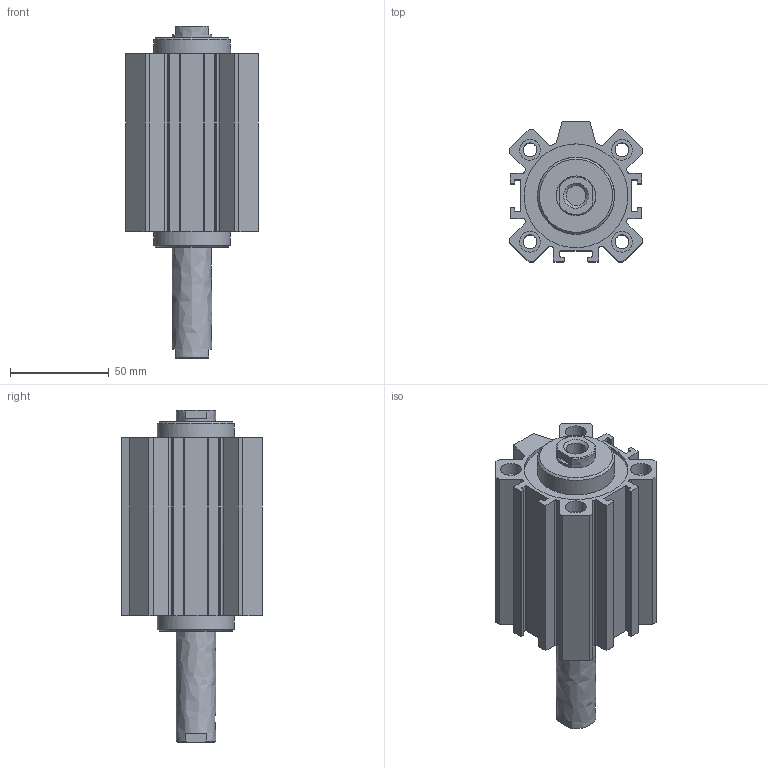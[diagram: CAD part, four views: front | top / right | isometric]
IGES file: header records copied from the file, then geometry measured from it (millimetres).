
Global section: file name: 1514_50_0050; native system: Autodesk Inventor 2014; preprocessor: unknown; author: A. Manieri; date: 20160824.134208; units: millimetre
Bounding box: 67 x 71 x 168 mm (x, y, z)
Volume: 264290.1 mm3; surface area: 85854.9 mm2
Topology: 2 solids, 2 shells, 178 faces, 482 edges, 328 vertices
Faces by surface type: bspline 178
